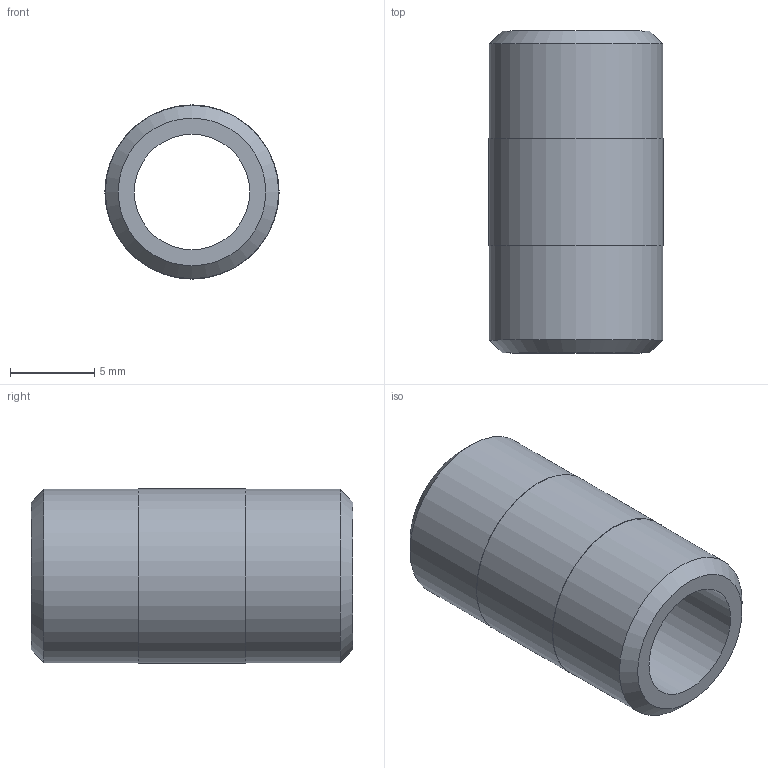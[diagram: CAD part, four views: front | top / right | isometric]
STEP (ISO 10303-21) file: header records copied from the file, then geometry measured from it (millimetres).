
FILE_DESCRIPTION(/* description */ (''),/* implementation_level */ '2;1');
FILE_NAME(/* name */ 'C:/Users/drich/Desktop/BPN18-CLOSE v1.step',/* time_stamp */ '2020-01-03T14:50:20-06:00',/* author */ (''),/* organization */ (''),/* preprocessor_version */ 'ST-DEVELOPER v18',/* originating_system */ 'Autodesk Translation Framework v8.12.0.6',/* authorisation */ '');
FILE_SCHEMA (('AUTOMOTIVE_DESIGN { 1 0 10303 214 3 1 1 }'));
Length unit declared in the file: inch
Products named in the file (1): BPN18-CLOSE
Bounding box: 10.31 x 19.05 x 10.31 mm (x, y, z)
Volume: 864.4 mm3; surface area: 1087.5 mm2
Topology: 1 solids, 1 shells, 10 faces, 24 edges, 18 vertices
Faces by surface type: cylinder 4, plane 4, cone 2
Full cylindrical faces by diameter (mm): 6.833 x1, 10.262 x2, 10.312 x1
Entity records: 360 total; most frequent: DIRECTION 64, CARTESIAN_POINT 53, ORIENTED_EDGE 48, AXIS2_PLACEMENT_3D 29, EDGE_CURVE 24, CIRCLE 18, VERTEX_POINT 18, EDGE_LOOP 14
